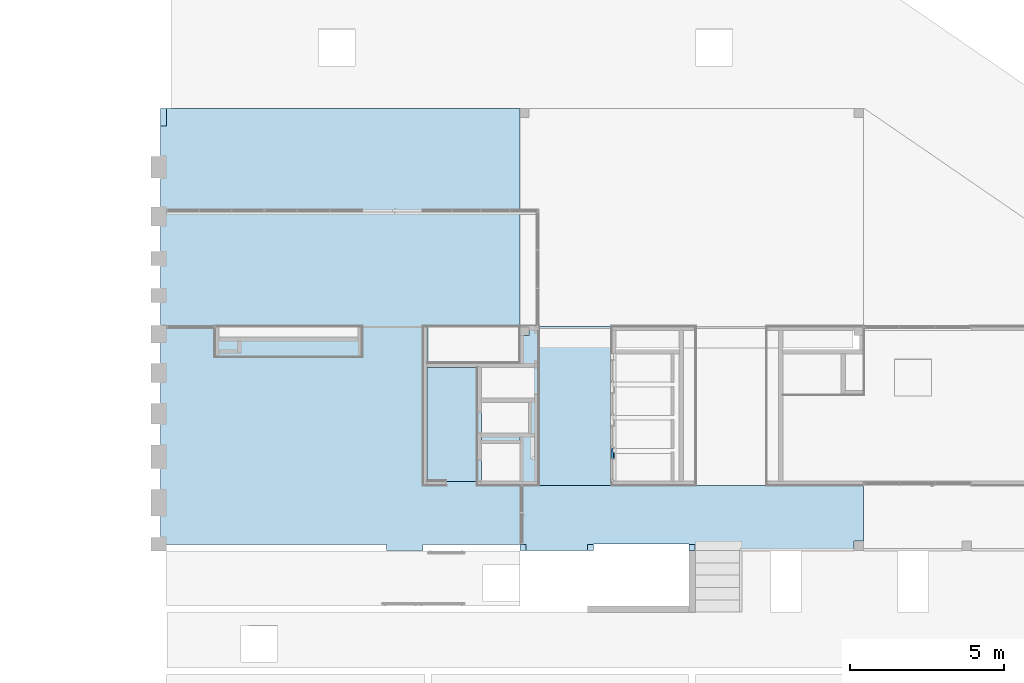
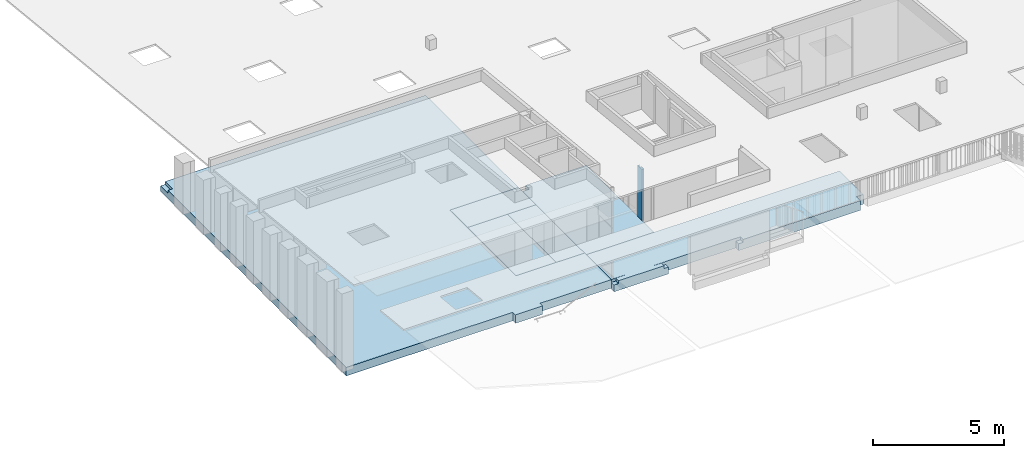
# One storey, part 23 of 43: 6 slabs, 1 plate, 1 element without a shape of its own.
"""IFC2X3 building model written with IfcOpenShell, lengths in millimetres."""

from ifc_helpers import new_model, entity, si_unit, converted_unit, derived_unit, money_unit, direction, frame, origin_with_axes, place, context, subcontext, project, spatial, faceted_brep, material, material_list, type_object, element, aggregate, save


model = new_model("IFC2X3")

# Units and contexts
model_context = context("Model", 3, precision=0.01, world=origin_with_axes(), true_north=direction((0.0, 1.0)))
body_context = subcontext(model_context, "Body", "Model", "MODEL_VIEW")
ifc_project = project(units=[si_unit("LENGTHUNIT", "METRE", prefix="MILLI"), si_unit("AREAUNIT", "SQUARE_METRE"), si_unit("VOLUMEUNIT", "CUBIC_METRE"), converted_unit("PLANEANGLEUNIT", "DEGREE", entity("IfcPlaneAngleMeasure", 0.0174532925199), si_unit("PLANEANGLEUNIT", "RADIAN"), dimensions=[0, 0, 0, 0, 0, 0, 0]), si_unit("SOLIDANGLEUNIT", "STERADIAN"), money_unit("EUR"), converted_unit("TIMEUNIT", "Year", entity("IfcTimeMeasure", 31556926.0), si_unit("TIMEUNIT", "SECOND"), dimensions=[0, 0, 1, 0, 0, 0, 0]), si_unit("MASSUNIT", "GRAM", prefix="KILO"), si_unit("THERMODYNAMICTEMPERATUREUNIT", "DEGREE_CELSIUS"), si_unit("LUMINOUSINTENSITYUNIT", "LUMEN"), si_unit("ENERGYUNIT", "JOULE", prefix="MEGA"), derived_unit("THERMALCONDUCTANCEUNIT", [(si_unit("POWERUNIT", "WATT"), 1), (si_unit("LENGTHUNIT", "METRE"), -1), (si_unit("THERMODYNAMICTEMPERATUREUNIT", "KELVIN"), -1)]), derived_unit("SPECIFICHEATCAPACITYUNIT", [(si_unit("ENERGYUNIT", "JOULE"), 1), (si_unit("MASSUNIT", "GRAM", prefix="KILO"), -1), (si_unit("THERMODYNAMICTEMPERATUREUNIT", "KELVIN"), -1)]), derived_unit("MASSDENSITYUNIT", [(si_unit("MASSUNIT", "GRAM", prefix="KILO"), 1), (si_unit("VOLUMEUNIT", "CUBIC_METRE"), -1)])], contexts=[model_context])

# Site, building, storey
site_placement = place(None, origin_with_axes())
site = spatial("IfcSite", under=ifc_project, at=site_placement, Name="L.Koidula tn 11b", CompositionType="ELEMENT")
building_placement = place(site_placement, origin_with_axes())
building = spatial("IfcBuilding", under=site, at=building_placement, Name="Rakvere Riigigümnaasium", CompositionType="ELEMENT")
storey_placement = place(building_placement, frame((0.0, 0.0, 6665.0), z_axis=(0.0, 0.0, 1.0), x_axis=(1.0, 0.0, 0.0)))
storey = spatial("IfcBuildingStorey", under=building, at=storey_placement, Name="3.korrus +6,66", CompositionType="ELEMENT", Elevation=6665.0)

# Curtain wall, plate
curtain_wall_type = type_object("IfcCurtainWallType", Name="Curtain Wall Type", PredefinedType="NOTDEFINED")
curtain_wall_placement = place(storey_placement, frame((49969.604162, 20812.4526887, -4.66409044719e-06), z_axis=(0.0, 0.0, 1.0), x_axis=(1.0, 0.0, 0.0)))
curtain_wall = element("IfcCurtainWall", 1, at=curtain_wall_placement, inside=storey, type_object=curtain_wall_type, Name="SUS-03")
ifc_material_1 = material(Name="Klaasvill")
ifc_material_2 = material(Name="MDF")
ifc_material_3 = material(Name="Kipsplaat")
ifc_material_list_1 = material_list([ifc_material_1, ifc_material_2, ifc_material_3])
plate_type = type_object("IfcPlateType", Name="SA-Siseuksesüsteem-Paneel 3 x 2400 x 0", PredefinedType="CURTAIN_PANEL")
plate_placement = place(curtain_wall_placement, frame((0.0, -535.0, 1200.00000697), z_axis=(0.0, 0.0, 1.0), x_axis=(0.0, -1.0, 0.0)))
plate = element("IfcPlate", 2, at=plate_placement, type_object=plate_type, material=ifc_material_list_1, Name="Panel-SA-Siseuks-012", ObjectType="CURTAIN_PANEL", context=body_context, shape_type="Brep", body=[
    faceted_brep([(-17.9862771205, 45.0, 1199.99999769), (-29.9862771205, 45.0, 1199.99999769), (-29.9862771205, 45.3958317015, 1199.99999769), (-32.9862771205, 45.3958317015, 1199.99999769), (-152.98627712, 45.3958317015, 1199.99999769), (-155.98627712, 45.3958317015, 1199.99999769), (-155.98627712, 45.0, 1199.99999769), (-167.98627712, 45.0, 1199.99999769), (-167.98627712, 79.0, 1199.99999769), (-168.047674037, 79.0, 1200.00000697), (-168.047674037, 42.0, 1200.00000697), (168.047671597, 42.0, 1200.00000697), (168.047671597, 79.0, 1200.00000697), (-17.9862771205, 79.0, 1199.99999769), (-17.9862771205, 45.3958317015, 1199.99999769), (-17.9862771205, 45.0, -1200.00000231), (-29.9862771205, 45.0, -1200.00000231), (-29.9862771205, 45.3958317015, -1200.00000231), (-32.9862771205, 45.3958317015, -1200.00000231), (-152.98627712, 45.3958317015, -1200.00000231), (-155.98627712, 45.3958317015, -1200.00000231), (-155.98627712, 45.0, -1200.00000231), (-167.98627712, 45.0, -1200.00000231), (-167.98627712, 79.0, -1200.00000231), (-168.047674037, 79.0, -1200.00000697), (-168.047674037, 42.0, -1200.00000697), (168.047671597, 42.0, -1200.00000697), (168.047671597, 79.0, -1200.00000697), (-17.9862771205, 79.0, -1200.00000231), (-17.9862771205, 45.3958317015, -1200.00000231)], [[[0, 1, 2, 3, 4, 5, 6, 7, 8, 9, 10, 11, 12, 13, 14]], [[1, 0, 15, 16]], [[17, 2, 1, 16]], [[2, 17, 18, 3]], [[18, 19, 4, 3]], [[19, 20, 5, 4]], [[21, 6, 5, 20]], [[22, 7, 6, 21]], [[8, 7, 22, 23]], [[24, 9, 8, 23]], [[10, 9, 24, 25]], [[25, 26, 11, 10]], [[26, 27, 12, 11]], [[12, 27, 28, 13]], [[0, 14, 13, 28, 29, 15]], [[15, 29, 28, 27, 26, 25, 24, 23, 22, 21, 20, 19, 18, 17, 16]]]),
    faceted_brep([(168.047671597, 92.0, -1200.00000697), (-17.9862771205, 92.0, -1200.00000231), (-17.9862771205, 92.0, 1199.99999769), (168.047671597, 92.0, 1200.00000697), (168.047671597, 84.0, -1200.00000697), (-17.9862771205, 84.0, -1200.00000231), (-17.9862771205, 84.0, 1199.99999769), (168.047671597, 84.0, 1200.00000697)], [[[0, 1, 2, 3]], [[4, 5, 1, 0]], [[5, 6, 2, 1]], [[3, 2, 6, 7]], [[0, 3, 7, 4]], [[7, 6, 5, 4]]]),
    faceted_brep([(-168.047674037, 84.0, 1200.00000697), (-167.98627712, 84.0, 1199.99999769), (-167.98627712, 92.0, 1199.99999769), (-168.047674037, 92.0, 1200.00000697), (-168.047674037, 84.0, -1200.00000697), (-167.98627712, 84.0, -1200.00000231), (-167.98627712, 92.0, -1200.00000231), (-168.047674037, 92.0, -1200.00000697)], [[[0, 1, 2, 3]], [[4, 5, 1, 0]], [[5, 6, 2, 1]], [[3, 2, 6, 7]], [[3, 7, 4, 0]], [[7, 6, 5, 4]]]),
    faceted_brep([(-168.047674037, 0.0, 1200.00000697), (168.047671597, 0.0, 1200.00000697), (168.047671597, 10.0, 1200.00000697), (-168.047674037, 10.0, 1200.00000697), (-168.047674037, 0.0, -1200.00000697), (168.047671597, 0.0, -1200.00000697), (168.047671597, 10.0, -1200.00000697), (-168.047674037, 10.0, -1200.00000697)], [[[0, 1, 2, 3]], [[0, 4, 5, 1]], [[1, 5, 6, 2]], [[3, 2, 6, 7]], [[4, 0, 3, 7]], [[5, 4, 7, 6]]]),
    faceted_brep([(-168.047674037, 12.0, 1200.00000697), (168.047671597, 12.0, 1200.00000697), (168.047671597, 25.0, 1200.00000697), (-168.047674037, 25.0, 1200.00000697), (-168.047674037, 12.0, -1200.00000697), (168.047671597, 12.0, -1200.00000697), (168.047671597, 25.0, -1200.00000697), (-168.047674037, 25.0, -1200.00000697)], [[[0, 1, 2, 3]], [[0, 4, 5, 1]], [[1, 5, 6, 2]], [[3, 2, 6, 7]], [[4, 0, 3, 7]], [[5, 4, 7, 6]]]),
    faceted_brep([(-168.047674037, 25.0, 1200.00000697), (168.047671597, 25.0, 1200.00000697), (168.047671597, 38.0, 1200.00000697), (-168.047674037, 38.0, 1200.00000697), (-168.047674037, 25.0, -1200.00000697), (168.047671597, 25.0, -1200.00000697), (168.047671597, 38.0, -1200.00000697), (-168.047674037, 38.0, -1200.00000697)], [[[0, 1, 2, 3]], [[0, 4, 5, 1]], [[1, 5, 6, 2]], [[3, 2, 6, 7]], [[4, 0, 3, 7]], [[5, 4, 7, 6]]]),
])
aggregate(curtain_wall, [plate])

# Slabs
ifc_material_4 = material(Name="vaip")
ifc_material_5 = material(Name="Betoon - pealevalu")
ifc_material_6 = material(Name="Betoon")
ifc_material_7 = material(Name="Mürasummutus vill")
ifc_material_8 = material(Name="Betoon õõnespaneel")
ifc_material_list_2 = material_list([ifc_material_4, ifc_material_5, ifc_material_6, ifc_material_7, ifc_material_8])
slab_type_1 = type_object("IfcSlabType", Name="VL-02-2 450", PredefinedType="NOTDEFINED")
slab_1_placement = place(storey_placement, frame((46999.9999938, 17110.455512, 0.0), z_axis=(0.0, 0.0, 1.0), x_axis=(1.0, 0.0, 0.0)))
element("IfcSlab", 3, at=slab_1_placement, inside=storey, type_object=slab_type_1, material=ifc_material_list_2, Name="Vahelagi", PredefinedType="NOTDEFINED", context=body_context, shape_type="Brep", body=[
    faceted_brep([(10880.0348881, -2.51004905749e-06, 0.0), (10880.0348881, 299.99999749, 0.0), (11180.0348881, 299.99999749, 0.0), (11180.0348163, 2119.98419523, 0.0), (0.0, 2119.98419523, 0.0), (8.39899882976e-06, 209.999997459, 0.0), (600.000001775, 209.999997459, 0.0), (600.000001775, 199.999997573, 0.0), (200.0, 200.000000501, 0.0), (200.0, 1.37134748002e-09, 0.0), (2200.00000003, -2.51004905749e-06, 0.0), (2200.00000003, 199.99999749, 0.0), (1800.00000177, 199.999997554, 0.0), (1800.00000177, 209.999997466, 0.0), (2399.9999999, 209.99999747, 0.0), (5499.99999991, 209.999997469, 0.0), (5709.99999991, 209.99999749, 0.0), (5709.99999991, 199.999997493, 0.0), (5699.99999991, 199.999999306, 0.0), (5699.99999991, -2.50322784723e-06, 0.0), (10880.0348881, -2.51004905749e-06, -5.0), (10880.0348881, 299.99999749, -5.0), (11180.0348881, 299.99999749, -5.0), (11180.0348163, 2119.98419523, -5.0), (0.0, 2119.98419523, -5.0), (8.45318481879e-06, 209.999997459, -5.0), (600.000001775, 209.999997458, -5.0), (600.000001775, 199.99999757, -5.0), (200.0, 200.000000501, -5.0), (200.0, 1.37134748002e-09, -5.0), (2200.00000003, -2.51004905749e-06, -5.0), (2200.00000003, 199.99999749, -5.0), (1800.00000177, 199.999997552, -5.0), (1800.00000177, 209.999997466, -5.0), (2399.9999999, 209.99999747, -5.0), (5499.99999991, 209.999997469, -5.0), (5709.99999991, 209.99999749, -5.0), (5709.99999991, 199.999997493, -5.0), (5699.99999991, 199.999999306, -5.0), (5699.99999991, -2.50346943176e-06, -5.0)], [[[0, 1, 2, 3, 4, 5, 6, 7, 8, 9, 10, 11, 12, 13, 14, 15, 16, 17, 18, 19]], [[1, 0, 20, 21]], [[22, 2, 1, 21]], [[2, 22, 23, 3]], [[3, 23, 24, 4]], [[24, 25, 5, 4]], [[26, 6, 5, 25]], [[27, 7, 6, 26]], [[28, 8, 7, 27]], [[9, 8, 28, 29]], [[29, 30, 10, 9]], [[30, 31, 11, 10]], [[32, 12, 11, 31]], [[33, 13, 12, 32]], [[33, 34, 14, 13]], [[34, 35, 15, 14]], [[36, 16, 15, 35]], [[37, 17, 16, 36]], [[38, 18, 17, 37]], [[19, 18, 38, 39]], [[20, 0, 19, 39]], [[21, 20, 39, 38, 37, 36, 35, 34, 33, 32, 31, 30, 29, 28, 27, 26, 25, 24, 23, 22]]]),
    faceted_brep([(10880.0348881, -2.51004905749e-06, -5.0), (10880.0348881, 299.99999749, -5.0), (11180.0348881, 299.99999749, -5.0), (11180.0348163, 2119.98419523, -5.0), (0.0, 2119.98419523, -5.0), (8.45530934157e-06, 199.999999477, -5.0), (200.0, 199.999999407, -5.0), (200.0, 1.37134748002e-09, -5.0), (2200.00000003, -2.51004905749e-06, -5.0), (2200.00000003, 199.99999749, -5.0), (2399.9999999, 199.999997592, -5.0), (2399.99999991, 209.99999749, -5.0), (5499.99999991, 209.99999749, -5.0), (5499.99999991, 199.99999749, -5.0), (5699.99999991, 199.999997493, -5.0), (5699.99999991, -2.50346943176e-06, -5.0), (10880.0348881, -2.51004905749e-06, -10.0), (10880.0348881, 299.99999749, -10.0), (11180.0348881, 299.99999749, -10.0), (11180.0348163, 2119.98419523, -10.0), (0.0, 2119.98419523, -10.0), (8.50946690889e-06, 199.999999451, -10.0), (200.0, 199.999999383, -10.0), (200.0, 1.37134748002e-09, -10.0), (2200.00000003, -2.51004905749e-06, -10.0), (2200.00000003, 199.99999749, -10.0), (2399.9999999, 199.999997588, -10.0), (2399.99999991, 209.99999749, -10.0), (5499.99999991, 209.99999749, -10.0), (5499.99999991, 199.99999749, -10.0), (5699.99999991, 199.999997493, -10.0), (5699.99999991, -2.50370746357e-06, -10.0)], [[[0, 1, 2, 3, 4, 5, 6, 7, 8, 9, 10, 11, 12, 13, 14, 15]], [[1, 0, 16, 17]], [[18, 2, 1, 17]], [[2, 18, 19, 3]], [[3, 19, 20, 4]], [[20, 21, 5, 4]], [[22, 6, 5, 21]], [[23, 7, 6, 22]], [[23, 24, 8, 7]], [[25, 9, 8, 24]], [[25, 26, 10, 9]], [[11, 10, 26, 27]], [[11, 27, 28, 12]], [[28, 29, 13, 12]], [[30, 14, 13, 29]], [[31, 15, 14, 30]], [[16, 0, 15, 31]], [[17, 16, 31, 30, 29, 28, 27, 26, 25, 24, 23, 22, 21, 20, 19, 18]]]),
    faceted_brep([(10880.0348881, -2.51004905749e-06, -10.0), (10880.0348881, 299.99999749, -10.0), (11180.0348881, 299.99999749, -10.0), (11180.0348163, 2119.98419523, -10.0), (0.0, 2119.98419523, -10.0), (8.50946690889e-06, 199.999999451, -10.0), (200.0, 199.999999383, -10.0), (200.0, 1.37134748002e-09, -10.0), (2200.00000003, -2.51004905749e-06, -10.0), (2200.00000003, 199.99999749, -10.0), (2399.9999999, 199.999997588, -10.0), (2399.99999991, 209.99999749, -10.0), (5499.99999991, 209.99999749, -10.0), (5499.99999991, 199.99999749, -10.0), (5699.99999991, 199.999997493, -10.0), (5699.99999991, -2.50370746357e-06, -10.0), (10880.0348881, -2.51004905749e-06, -100.0), (10880.0348881, 299.99999749, -100.0), (11180.0348881, 299.99999749, -100.0), (11180.0348163, 2119.98419523, -100.0), (0.0, 2119.98419523, -100.0), (9.48434575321e-06, 199.999998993, -100.0), (200.0, 199.99999894, -100.0), (200.0, 1.37134748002e-09, -100.0), (2200.00000003, -2.51004905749e-06, -100.0), (2200.00000003, 199.99999749, -100.0), (2399.9999999, 199.999997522, -100.0), (2399.99999991, 209.99999749, -100.0), (5499.99999991, 209.99999749, -100.0), (5499.99999991, 199.99999749, -100.0), (5699.99999991, 199.999997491, -100.0), (5699.99999991, -2.50801335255e-06, -100.0)], [[[0, 1, 2, 3, 4, 5, 6, 7, 8, 9, 10, 11, 12, 13, 14, 15]], [[1, 0, 16, 17]], [[18, 2, 1, 17]], [[2, 18, 19, 3]], [[3, 19, 20, 4]], [[20, 21, 5, 4]], [[22, 6, 5, 21]], [[23, 7, 6, 22]], [[23, 24, 8, 7]], [[25, 9, 8, 24]], [[25, 26, 10, 9]], [[11, 10, 26, 27]], [[11, 27, 28, 12]], [[28, 29, 13, 12]], [[30, 14, 13, 29]], [[31, 15, 14, 30]], [[16, 0, 15, 31]], [[17, 16, 31, 30, 29, 28, 27, 26, 25, 24, 23, 22, 21, 20, 19, 18]]]),
    faceted_brep([(10880.0348881, -2.51004905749e-06, -100.0), (10880.0348881, 299.99999749, -100.0), (11180.0348881, 299.99999749, -100.0), (11180.0348163, 2119.98419523, -100.0), (0.0, 2119.98419523, -100.0), (9.48434575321e-06, 199.999998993, -100.0), (200.0, 199.99999894, -100.0), (200.0, 1.37134748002e-09, -100.0), (2200.00000003, -2.51004905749e-06, -100.0), (2200.00000003, 199.99999749, -100.0), (2399.9999999, 199.999997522, -100.0), (2399.99999991, 209.99999749, -100.0), (5499.99999991, 209.99999749, -100.0), (5499.99999991, 199.99999749, -100.0), (5699.99999991, 199.999997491, -100.0), (5699.99999991, -2.50801335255e-06, -100.0), (10880.0348881, -2.51004905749e-06, -130.0), (10880.0348881, 299.99999749, -130.0), (11180.0348881, 299.99999749, -130.0), (11180.0348163, 2119.98419523, -130.0), (0.0, 2119.98419523, -130.0), (9.80930536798e-06, 199.99999884, -130.0), (200.0, 199.999998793, -130.0), (200.0, 1.37134748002e-09, -130.0), (2200.00000003, -2.51004905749e-06, -130.0), (2200.00000003, 199.99999749, -130.0), (2399.9999999, 199.999997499, -130.0), (2399.99999991, 209.99999749, -130.0), (5499.99999991, 209.99999749, -130.0), (5499.99999991, 199.99999749, -130.0), (5699.99999991, 199.99999749, -130.0), (5699.99999991, -2.50944864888e-06, -130.0)], [[[0, 1, 2, 3, 4, 5, 6, 7, 8, 9, 10, 11, 12, 13, 14, 15]], [[1, 0, 16, 17]], [[18, 2, 1, 17]], [[2, 18, 19, 3]], [[3, 19, 20, 4]], [[20, 21, 5, 4]], [[22, 6, 5, 21]], [[23, 7, 6, 22]], [[23, 24, 8, 7]], [[25, 9, 8, 24]], [[25, 26, 10, 9]], [[11, 10, 26, 27]], [[11, 27, 28, 12]], [[28, 29, 13, 12]], [[30, 14, 13, 29]], [[31, 15, 14, 30]], [[16, 0, 15, 31]], [[17, 16, 31, 30, 29, 28, 27, 26, 25, 24, 23, 22, 21, 20, 19, 18]]]),
    faceted_brep([(10880.0348881, -2.51004905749e-06, -130.0), (10880.0348881, 299.99999749, -130.0), (11180.0348881, 299.99999749, -130.0), (11180.0348163, 2119.98419523, -130.0), (0.0, 2119.98419523, -130.0), (0.0, 0.0, -130.0), (2399.99999991, 1.64419589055e-08, -130.0), (2399.99999991, 209.99999749, -130.0), (5499.99999991, 209.99999749, -130.0), (5499.99999991, -2.53825049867e-06, -130.0), (10880.0348881, -2.51004905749e-06, -450.0), (10880.0348881, 299.99999749, -450.0), (11180.0348881, 299.99999749, -450.0), (11180.0348163, 2119.98419523, -450.0), (0.0, 2119.98419523, -450.0), (0.0, 0.0, -450.0), (2399.99999991, 1.64419589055e-08, -450.0), (2399.99999991, 209.99999749, -450.0), (5499.99999991, 209.99999749, -450.0), (5499.99999991, -2.53825049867e-06, -450.0)], [[[0, 1, 2, 3, 4, 5, 6, 7, 8, 9]], [[1, 0, 10, 11]], [[12, 2, 1, 11]], [[2, 12, 13, 3]], [[4, 3, 13, 14]], [[5, 4, 14, 15]], [[6, 5, 15, 16]], [[7, 6, 16, 17]], [[8, 7, 17, 18]], [[9, 8, 18, 19]], [[10, 0, 9, 19]], [[11, 10, 19, 18, 17, 16, 15, 14, 13, 12]]]),
])
ifc_material_list_3 = material_list([ifc_material_4, ifc_material_6, ifc_material_7, ifc_material_8])
slab_type_2 = type_object("IfcSlabType", Name="VL-01-3 395", PredefinedType="NOTDEFINED")
slab_2_placement = place(storey_placement, frame((35300.0, 17310.4555095, 0.0), z_axis=(0.0, 0.0, 1.0), x_axis=(1.0, 0.0, 0.0)))
element("IfcSlab", 4, at=slab_2_placement, inside=storey, type_object=slab_type_2, material=ifc_material_list_3, Name="Vahelagi", PredefinedType="NOTDEFINED", context=body_context, shape_type="Brep", body=[
    faceted_brep([(0.0, 0.0, 0.0), (200.000052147, 5.47011325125e-08, 0.0), (200.000052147, 10.0000000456, 0.0), (5750.00098215, 10.0000000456, 0.0), (5750.00098215, 4.55742110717e-08, 0.0), (7349.99999646, 0.0, 0.0), (7349.99999646, -200.000000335, 0.0), (8549.99999646, -200.000000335, 0.0), (8549.99999646, -3.3538682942e-07, 0.0), (11689.9999948, 9.70810987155e-07, 0.0), (11689.9999963, 10.0000000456, 0.0), (11700.0000022, 10.0000000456, 0.0), (11699.9998921, 2049.98411886, 0.0), (8669.99994501, 2049.98411886, 0.0), (8669.99994501, 7100.00003033, 0.0), (11699.9998921, 7100.00003033, 0.0), (11699.9998921, 14190.0010902, 0.0), (200.000052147, 14190.0455666, 0.0), (200.000052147, 13620.0000158, 0.0), (0.0, 13620.0000158, 0.0), (0.0, 0.0, -5.0), (200.000052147, 5.43813882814e-08, -5.0), (200.000052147, 10.0000000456, -5.0), (5750.00098215, 10.0000000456, -5.0), (5750.00098215, 4.55742110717e-08, -5.0), (7349.99999646, 0.0, -5.0), (7349.99999646, -200.000000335, -5.0), (8549.99999646, -200.000000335, -5.0), (8549.99999646, -3.3538682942e-07, -5.0), (11689.9999948, 9.38360500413e-07, -5.0), (11689.9999963, 10.0000000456, -5.0), (11700.0000022, 10.0000000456, -5.0), (11699.9998921, 2049.98411886, -5.0), (8669.99994501, 2049.98411886, -5.0), (8669.99994501, 7100.00003033, -5.0), (11699.9998921, 7100.00003033, -5.0), (11699.9998921, 14190.0010902, -5.0), (200.000052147, 14190.0455666, -5.0), (200.000052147, 13620.0000158, -5.0), (0.0, 13620.0000158, -5.0)], [[[0, 1, 2, 3, 4, 5, 6, 7, 8, 9, 10, 11, 12, 13, 14, 15, 16, 17, 18, 19]], [[20, 21, 1, 0]], [[22, 2, 1, 21]], [[23, 3, 2, 22]], [[24, 4, 3, 23]], [[5, 4, 24, 25]], [[5, 25, 26, 6]], [[6, 26, 27, 7]], [[7, 27, 28, 8]], [[28, 29, 9, 8]], [[30, 10, 9, 29]], [[30, 31, 11, 10]], [[12, 11, 31, 32]], [[12, 32, 33, 13]], [[13, 33, 34, 14]], [[14, 34, 35, 15]], [[15, 35, 36, 16]], [[36, 37, 17, 16]], [[38, 18, 17, 37]], [[39, 19, 18, 38]], [[0, 19, 39, 20]], [[23, 22, 21, 20, 39, 38, 37, 36, 35, 34, 33, 32, 31, 30, 29, 28, 27, 26, 25, 24]]]),
    faceted_brep([(11699.9998921, 14190.0010902, -100.0), (200.000052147, 14190.0455666, -100.0), (200.000052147, 14190.0455666, -5.0), (11699.9998921, 14190.0010902, -5.0), (0.0, 13620.0000158, -100.0), (200.000052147, 13620.0000158, -100.0), (11699.9998921, 7100.00003033, -100.0), (8669.99994501, 7100.00003033, -100.0), (8669.99994501, 2049.98411886, -100.0), (11699.9998921, 2049.98411886, -100.0), (11699.9998921, -3.3538682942e-07, -100.0), (8549.99999646, -3.3538682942e-07, -100.0), (8549.99999646, -200.000000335, -100.0), (7349.99999646, -200.000000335, -100.0), (7349.99999646, 0.0, -100.0), (0.0, 0.0, -100.0), (200.000052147, 13620.0000158, -5.0), (0.0, 13620.0000158, -5.0), (0.0, 0.0, -5.0), (7349.99999646, 0.0, -5.0), (7349.99999646, -200.000000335, -5.0), (8549.99999646, -200.000000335, -5.0), (8549.99999646, -3.3538682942e-07, -5.0), (11699.9998921, -3.3538682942e-07, -5.0), (11699.9998921, 2049.98411886, -5.0), (8669.99994501, 2049.98411886, -5.0), (8669.99994501, 7100.00003033, -5.0), (11699.9998921, 7100.00003033, -5.0)], [[[0, 1, 2, 3]], [[4, 5, 1, 0, 6, 7, 8, 9, 10, 11, 12, 13, 14, 15]], [[5, 16, 2, 1]], [[2, 16, 17, 18, 19, 20, 21, 22, 23, 24, 25, 26, 27, 3]], [[27, 6, 0, 3]], [[4, 17, 16, 5]], [[26, 7, 6, 27]], [[25, 8, 7, 26]], [[24, 9, 8, 25]], [[23, 10, 9, 24]], [[22, 11, 10, 23]], [[21, 12, 11, 22]], [[20, 13, 12, 21]], [[19, 14, 13, 20]], [[18, 15, 14, 19]], [[18, 17, 4, 15]]]),
    faceted_brep([(11699.9998921, 14190.0010902, -130.0), (200.000052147, 14190.0455666, -130.0), (200.000052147, 14190.0455666, -100.0), (11699.9998921, 14190.0010902, -100.0), (0.0, 13620.0000158, -130.0), (200.000052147, 13620.0000158, -130.0), (11699.9998921, 7100.00003033, -130.0), (8669.99994501, 7100.00003033, -130.0), (8669.99994501, 2049.98411886, -130.0), (11699.9998921, 2049.98411886, -130.0), (11699.9998921, -3.3538682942e-07, -130.0), (8549.99999646, -3.3538682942e-07, -130.0), (8549.99999646, -200.000000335, -130.0), (7349.99999646, -200.000000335, -130.0), (7349.99999646, 0.0, -130.0), (0.0, 0.0, -130.0), (200.000052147, 13620.0000158, -100.0), (0.0, 13620.0000158, -100.0), (0.0, 0.0, -100.0), (7349.99999646, 0.0, -100.0), (7349.99999646, -200.000000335, -100.0), (8549.99999646, -200.000000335, -100.0), (8549.99999646, -3.3538682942e-07, -100.0), (11699.9998921, -3.3538682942e-07, -100.0), (11699.9998921, 2049.98411886, -100.0), (8669.99994501, 2049.98411886, -100.0), (8669.99994501, 7100.00003033, -100.0), (11699.9998921, 7100.00003033, -100.0)], [[[0, 1, 2, 3]], [[4, 5, 1, 0, 6, 7, 8, 9, 10, 11, 12, 13, 14, 15]], [[5, 16, 2, 1]], [[2, 16, 17, 18, 19, 20, 21, 22, 23, 24, 25, 26, 27, 3]], [[27, 6, 0, 3]], [[4, 17, 16, 5]], [[26, 7, 6, 27]], [[25, 8, 7, 26]], [[24, 9, 8, 25]], [[23, 10, 9, 24]], [[22, 11, 10, 23]], [[21, 12, 11, 22]], [[20, 13, 12, 21]], [[19, 14, 13, 20]], [[18, 15, 14, 19]], [[18, 17, 4, 15]]]),
    faceted_brep([(7349.99999646, 0.0, -130.0), (0.0, 0.0, -130.0), (0.0, 0.0, -395.0), (7349.99999646, 0.0, -395.0), (11699.9998921, 14190.0010902, -130.0), (0.0, 14190.0463401, -130.0), (7349.99999646, -200.000000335, -130.0), (8549.99999646, -200.000000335, -130.0), (8549.99999646, -3.3538682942e-07, -130.0), (11699.9998921, -3.3538682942e-07, -130.0), (11699.9998921, 2049.98411886, -130.0), (8669.99994501, 2049.98411886, -130.0), (8669.99994501, 7100.00003033, -130.0), (11699.9998921, 7100.00003033, -130.0), (0.0, 14190.0463401, -395.0), (7349.99999646, -200.000000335, -395.0), (11699.9998921, 14190.0010902, -395.0), (11699.9998921, 7100.00003033, -395.0), (8669.99994501, 7100.00003033, -395.0), (8669.99994501, 2049.98411886, -395.0), (11699.9998921, 2049.98411886, -395.0), (11699.9998921, -3.3538682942e-07, -395.0), (8549.99999646, -3.3538682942e-07, -395.0), (8549.99999646, -200.000000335, -395.0)], [[[0, 1, 2, 3]], [[4, 5, 1, 0, 6, 7, 8, 9, 10, 11, 12, 13]], [[1, 5, 14, 2]], [[15, 3, 2, 14, 16, 17, 18, 19, 20, 21, 22, 23]], [[6, 0, 3, 15]], [[5, 4, 16, 14]], [[7, 6, 15, 23]], [[8, 7, 23, 22]], [[9, 8, 22, 21]], [[10, 9, 21, 20]], [[11, 10, 20, 19]], [[12, 11, 19, 18]], [[13, 12, 18, 17]], [[4, 13, 17, 16]]]),
])
ifc_material_9 = material(Name="Parkett")
ifc_material_list_4 = material_list([ifc_material_9, ifc_material_6, ifc_material_7, ifc_material_8])
slab_type_3 = type_object("IfcSlabType", Name="VL-01 395", PredefinedType="NOTDEFINED")
slab_3_placement = place(storey_placement, frame((43979.9999965, 19360.4397072, 0.0), z_axis=(0.0, 0.0, 1.0), x_axis=(1.0, 0.0, 0.0)))
element("IfcSlab", 5, at=slab_3_placement, inside=storey, type_object=slab_type_3, material=ifc_material_list_4, Name="Vahelagi", PredefinedType="NOTDEFINED", context=body_context, shape_type="Brep", body=[
    faceted_brep([(1765.00349285, 0.0, -10.0), (1765.00349285, 0.0, 0.0), (0.0, 0.0, 0.0), (0.0, 0.0, -10.0), (1765.00349285, 3710.01583998, -10.0), (1765.00349285, 3710.01583998, 0.0), (0.0, 3710.01583998, 0.0), (0.0, 3710.01583998, -10.0)], [[[0, 1, 2, 3]], [[4, 5, 1, 0]], [[2, 1, 5, 6]], [[3, 2, 6, 7]], [[3, 7, 4, 0]], [[7, 6, 5, 4]]]),
    faceted_brep([(1765.00349285, 0.0, -100.0), (1765.00349285, 0.0, -10.0), (0.0, 0.0, -10.0), (0.0, 0.0, -100.0), (1765.00349285, 3710.01583998, -100.0), (1765.00349285, 3710.01583998, -10.0), (0.0, 3710.01583998, -10.0), (0.0, 3710.01583998, -100.0)], [[[0, 1, 2, 3]], [[4, 5, 1, 0]], [[2, 1, 5, 6]], [[3, 2, 6, 7]], [[3, 7, 4, 0]], [[7, 6, 5, 4]]]),
    faceted_brep([(1765.00349285, 0.0, -130.0), (1765.00349285, 0.0, -100.0), (0.0, 0.0, -100.0), (0.0, 0.0, -130.0), (1765.00349285, 3710.01583998, -130.0), (1765.00349285, 3710.01583998, -100.0), (0.0, 3710.01583998, -100.0), (0.0, 3710.01583998, -130.0)], [[[0, 1, 2, 3]], [[4, 5, 1, 0]], [[2, 1, 5, 6]], [[3, 2, 6, 7]], [[3, 7, 4, 0]], [[7, 6, 5, 4]]]),
    faceted_brep([(0.0, 0.0, -395.0), (1765.00349285, 0.0, -395.0), (1765.00349285, 0.0, -130.0), (0.0, 0.0, -130.0), (0.0, 3710.01583998, -395.0), (1765.00349285, 3710.01583998, -395.0), (1765.00349285, 3710.01583998, -130.0), (0.0, 3710.01583998, -130.0)], [[[0, 1, 2, 3]], [[0, 4, 5, 1]], [[1, 5, 6, 2]], [[3, 2, 6, 7]], [[4, 0, 3, 7]], [[5, 4, 7, 6]]]),
])
slab_4_placement = place(storey_placement, frame((46999.9999938, 23070.4555472, 0.0), z_axis=(0.0, 0.0, 1.0), x_axis=(1.0, 0.0, 0.0)))
element("IfcSlab", 6, at=slab_4_placement, inside=storey, type_object=slab_type_3, material=ifc_material_list_4, Name="Vahelagi", PredefinedType="NOTDEFINED", context=body_context, shape_type="Brep", body=[
    faceted_brep([(0.0, 1340.0, -10.0), (0.0, 1340.0, 0.0), (0.0, 0.0, 0.0), (0.0, 0.0, -10.0), (-3019.99999729, 1340.0, -10.0), (-3019.99999729, 1340.0, 0.0), (-3019.99999729, 0.0, 0.0), (-3019.99999729, 0.0, -10.0)], [[[0, 1, 2, 3]], [[4, 5, 1, 0]], [[2, 1, 5, 6]], [[3, 2, 6, 7]], [[3, 7, 4, 0]], [[7, 6, 5, 4]]]),
    faceted_brep([(0.0, 1340.0, -100.0), (0.0, 1340.0, -10.0), (0.0, 0.0, -10.0), (0.0, 0.0, -100.0), (-3019.99999729, 1340.0, -100.0), (-3019.99999729, 1340.0, -10.0), (-3019.99999729, 0.0, -10.0), (-3019.99999729, 0.0, -100.0)], [[[0, 1, 2, 3]], [[4, 5, 1, 0]], [[2, 1, 5, 6]], [[3, 2, 6, 7]], [[3, 7, 4, 0]], [[7, 6, 5, 4]]]),
    faceted_brep([(0.0, 1340.0, -130.0), (0.0, 1340.0, -100.0), (0.0, 0.0, -100.0), (0.0, 0.0, -130.0), (-3019.99999729, 1340.0, -130.0), (-3019.99999729, 1340.0, -100.0), (-3019.99999729, 0.0, -100.0), (-3019.99999729, 0.0, -130.0)], [[[0, 1, 2, 3]], [[4, 5, 1, 0]], [[2, 1, 5, 6]], [[3, 2, 6, 7]], [[3, 7, 4, 0]], [[7, 6, 5, 4]]]),
    faceted_brep([(0.0, 0.0, -395.0), (0.0, 1340.0, -395.0), (0.0, 1340.0, -130.0), (0.0, 0.0, -130.0), (-3019.99999729, 0.0, -395.0), (-3019.99999729, 1340.0, -395.0), (-3019.99999729, 1340.0, -130.0), (-3019.99999729, 0.0, -130.0)], [[[0, 1, 2, 3]], [[0, 4, 5, 1]], [[1, 5, 6, 2]], [[3, 2, 6, 7]], [[4, 0, 3, 7]], [[5, 4, 7, 6]]]),
])
ifc_material_10 = material(Name="Keraamiline plaat")
ifc_material_list_5 = material_list([ifc_material_10, ifc_material_6, ifc_material_7, ifc_material_8])
slab_type_4 = type_object("IfcSlabType", Name="VL-01-2 395", PredefinedType="NOTDEFINED")
slab_5_placement = place(storey_placement, frame((45745.0034893, 19360.4397072, 0.0), z_axis=(0.0, 0.0, 1.0), x_axis=(1.0, 0.0, 0.0)))
element("IfcSlab", 7, at=slab_5_placement, inside=storey, type_object=slab_type_4, material=ifc_material_list_5, Name="Vahelagi", PredefinedType="NOTDEFINED", context=body_context, shape_type="Brep", body=[
    faceted_brep([(1254.99650444, 0.0, -10.0), (1254.99650444, 0.0, 0.0), (0.0, 0.0, 0.0), (0.0, 0.0, -10.0), (1254.99650444, 3710.01583998, -10.0), (1254.99650444, 3710.01583998, 0.0), (0.0, 3710.01583998, 0.0), (0.0, 3710.01583998, -10.0)], [[[0, 1, 2, 3]], [[4, 5, 1, 0]], [[2, 1, 5, 6]], [[3, 2, 6, 7]], [[3, 7, 4, 0]], [[7, 6, 5, 4]]]),
    faceted_brep([(1254.99650444, 0.0, -100.0), (1254.99650444, 0.0, -10.0), (0.0, 0.0, -10.0), (0.0, 0.0, -100.0), (1254.99650444, 3710.01583998, -100.0), (1254.99650444, 3710.01583998, -10.0), (0.0, 3710.01583998, -10.0), (0.0, 3710.01583998, -100.0)], [[[0, 1, 2, 3]], [[4, 5, 1, 0]], [[2, 1, 5, 6]], [[3, 2, 6, 7]], [[3, 7, 4, 0]], [[7, 6, 5, 4]]]),
    faceted_brep([(1254.99650444, 0.0, -130.0), (1254.99650444, 0.0, -100.0), (0.0, 0.0, -100.0), (0.0, 0.0, -130.0), (1254.99650444, 3710.01583998, -130.0), (1254.99650444, 3710.01583998, -100.0), (0.0, 3710.01583998, -100.0), (0.0, 3710.01583998, -130.0)], [[[0, 1, 2, 3]], [[4, 5, 1, 0]], [[2, 1, 5, 6]], [[3, 2, 6, 7]], [[3, 7, 4, 0]], [[7, 6, 5, 4]]]),
    faceted_brep([(0.0, 0.0, -395.0), (1254.99650444, 0.0, -395.0), (1254.99650444, 0.0, -130.0), (0.0, 0.0, -130.0), (0.0, 3710.01583998, -395.0), (1254.99650444, 3710.01583998, -395.0), (1254.99650444, 3710.01583998, -130.0), (0.0, 3710.01583998, -130.0)], [[[0, 1, 2, 3]], [[0, 4, 5, 1]], [[1, 5, 6, 2]], [[3, 2, 6, 7]], [[4, 0, 3, 7]], [[5, 4, 7, 6]]]),
])
slab_type_5 = type_object("IfcSlabType", Name="VL-02 450", PredefinedType="NOTDEFINED")
slab_6_placement = place(storey_placement, frame((49989.604162, 24400.4555472, 0.0), z_axis=(0.0, 0.0, 1.0), x_axis=(1.0, 0.0, 0.0)))
element("IfcSlab", 8, at=slab_6_placement, inside=storey, type_object=slab_type_5, material=ifc_material_list_4, Name="Vahelagi", PredefinedType="NOTDEFINED", context=body_context, shape_type="Brep", body=[
    faceted_brep([(-2689.60276887, 0.0, -10.0), (-2689.60276887, 0.0, 0.0), (0.0, 0.0, 0.0), (0.0, 0.0, -10.0), (-2689.60276887, -300.0, 0.0), (-2689.60276887, -300.0, -10.0), (-2989.60276887, -300.0, 0.0), (-2989.60416821, -5170.01583998, 0.0), (0.0, -5170.01583998, 0.0), (0.0, -5170.01583998, -10.0), (-2989.60416821, -5170.01583998, -10.0), (-2989.60276887, -300.0, -10.0)], [[[0, 1, 2, 3]], [[4, 1, 0, 5]], [[4, 6, 7, 8, 2, 1]], [[9, 3, 2, 8]], [[5, 0, 3, 9, 10, 11]], [[6, 4, 5, 11]], [[6, 11, 10, 7]], [[10, 9, 8, 7]]]),
    faceted_brep([(-2689.60276887, 0.0, -100.0), (-2689.60276887, 0.0, -10.0), (0.0, 0.0, -10.0), (0.0, 0.0, -100.0), (-2689.60276887, -300.0, -10.0), (-2689.60276887, -300.0, -100.0), (-2989.60276887, -300.0, -10.0), (-2989.60416821, -5170.01583998, -10.0), (0.0, -5170.01583998, -10.0), (0.0, -5170.01583998, -100.0), (-2989.60416821, -5170.01583998, -100.0), (-2989.60276887, -300.0, -100.0)], [[[0, 1, 2, 3]], [[4, 1, 0, 5]], [[4, 6, 7, 8, 2, 1]], [[9, 3, 2, 8]], [[5, 0, 3, 9, 10, 11]], [[6, 4, 5, 11]], [[6, 11, 10, 7]], [[10, 9, 8, 7]]]),
    faceted_brep([(-2689.60276887, 0.0, -130.0), (-2689.60276887, 0.0, -100.0), (0.0, 0.0, -100.0), (0.0, 0.0, -130.0), (-2689.60276887, -300.0, -100.0), (-2689.60276887, -300.0, -130.0), (-2989.60276887, -300.0, -100.0), (-2989.60416821, -5170.01583998, -100.0), (0.0, -5170.01583998, -100.0), (0.0, -5170.01583998, -130.0), (-2989.60416821, -5170.01583998, -130.0), (-2989.60276887, -300.0, -130.0)], [[[0, 1, 2, 3]], [[4, 1, 0, 5]], [[4, 6, 7, 8, 2, 1]], [[9, 3, 2, 8]], [[5, 0, 3, 9, 10, 11]], [[6, 4, 5, 11]], [[6, 11, 10, 7]], [[10, 9, 8, 7]]]),
    faceted_brep([(-2689.60276887, 0.0, -450.0), (-2689.60276887, 0.0, -130.0), (0.0, 0.0, -130.0), (0.0, 0.0, -450.0), (-2689.60276887, -300.0, -130.0), (-2689.60276887, -300.0, -450.0), (-2989.60276887, -300.0, -130.0), (-2989.60416821, -5170.01583998, -130.0), (0.0, -5170.01583998, -130.0), (0.0, -5170.01583998, -450.0), (-2989.60416821, -5170.01583998, -450.0), (-2989.60276887, -300.0, -450.0)], [[[0, 1, 2, 3]], [[4, 1, 0, 5]], [[4, 6, 7, 8, 2, 1]], [[2, 8, 9, 3]], [[5, 0, 3, 9, 10, 11]], [[6, 4, 5, 11]], [[6, 11, 10, 7]], [[8, 7, 10, 9]]]),
])

save(model, "model.ifc")
